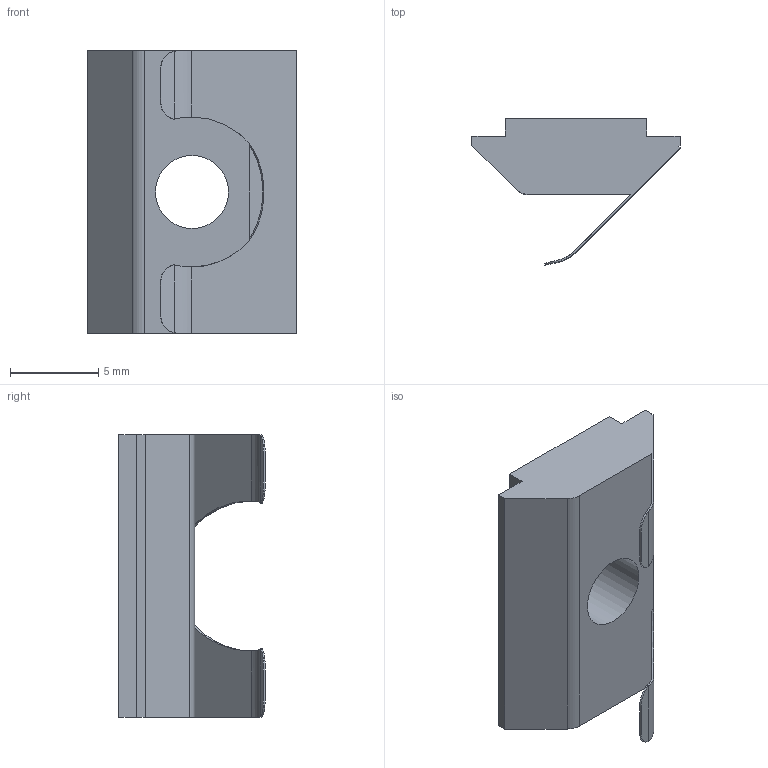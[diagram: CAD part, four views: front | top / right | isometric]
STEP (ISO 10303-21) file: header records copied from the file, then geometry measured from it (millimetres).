
FILE_DESCRIPTION((''),'2;1');
FILE_NAME('E:\catalogue and flyer\Profile catalogue 2015\Accessories JE info\Accessories-JE step file 31MAr16\JE-SN5-8_3030.stp','2016-03-31T16:42:25',('h029'),(''),'Autodesk Inventor 11','Autodesk Inventor 11','');
FILE_SCHEMA(('AUTOMOTIVE_DESIGN { 1 0 10303 214 1 1 1 1 }'));
Length unit declared in the file: millimetre
Products named in the file (1): JE-SN5-8_3030
Bounding box: 11.8 x 8.3 x 16 mm (x, y, z)
Volume: 577.8 mm3; surface area: 676.8 mm2
Topology: 1 solids, 1 shells, 40 faces, 104 edges, 66 vertices
Faces by surface type: plane 26, cylinder 10, bspline 3, cone 1
Entity records: 1258 total; most frequent: CARTESIAN_POINT 270, ORIENTED_EDGE 202, DIRECTION 196, EDGE_CURVE 101, VECTOR 66, LINE 66, AXIS2_PLACEMENT_3D 65, VERTEX_POINT 65
